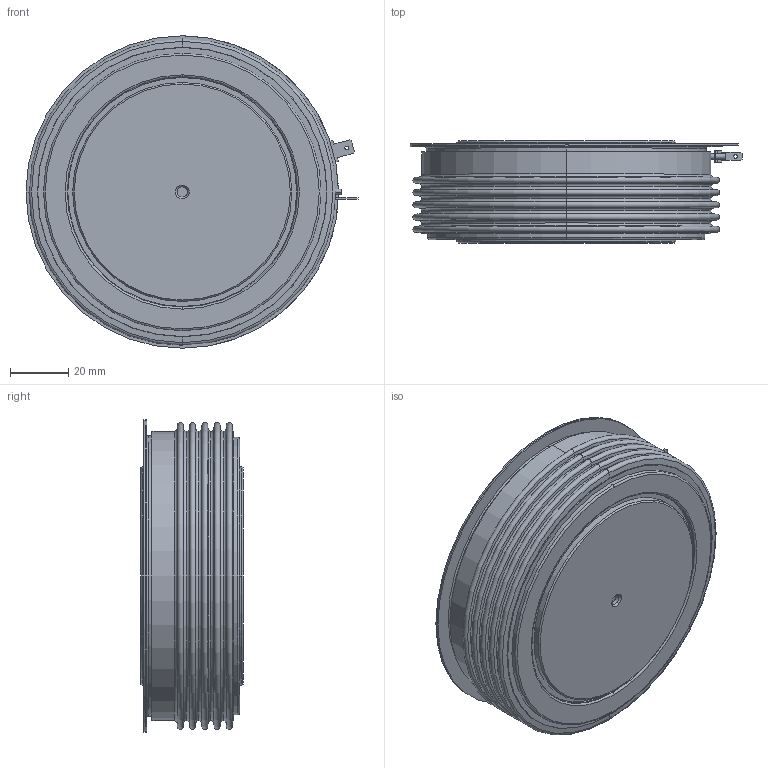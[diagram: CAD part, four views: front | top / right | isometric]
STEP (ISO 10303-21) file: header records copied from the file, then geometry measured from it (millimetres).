
FILE_DESCRIPTION (( 'STEP AP214' ), '1' );
FILE_NAME ('PT74.STEP', '2021-04-09T06:11:30', ( '' ), ( '' ), 'SwSTEP 2.0', 'SolidWorks 2018', '' );
FILE_SCHEMA (( 'AUTOMOTIVE_DESIGN' ));
Length unit declared in the file: millimetre
Products named in the file (1): PT74
Bounding box: 113.68 x 35 x 107 mm (x, y, z)
Volume: 184303.1 mm3; surface area: 65525.1 mm2
Topology: 7 solids, 7 shells, 184 faces, 390 edges, 230 vertices
Faces by surface type: cylinder 54, torus 54, plane 48, cone 28
Entity records: 7166 total; most frequent: DIRECTION 992, CARTESIAN_POINT 887, ORIENTED_EDGE 780, AXIS2_PLACEMENT_3D 423, EDGE_CURVE 390, CIRCLE 238, VERTEX_POINT 230, EDGE_LOOP 210
